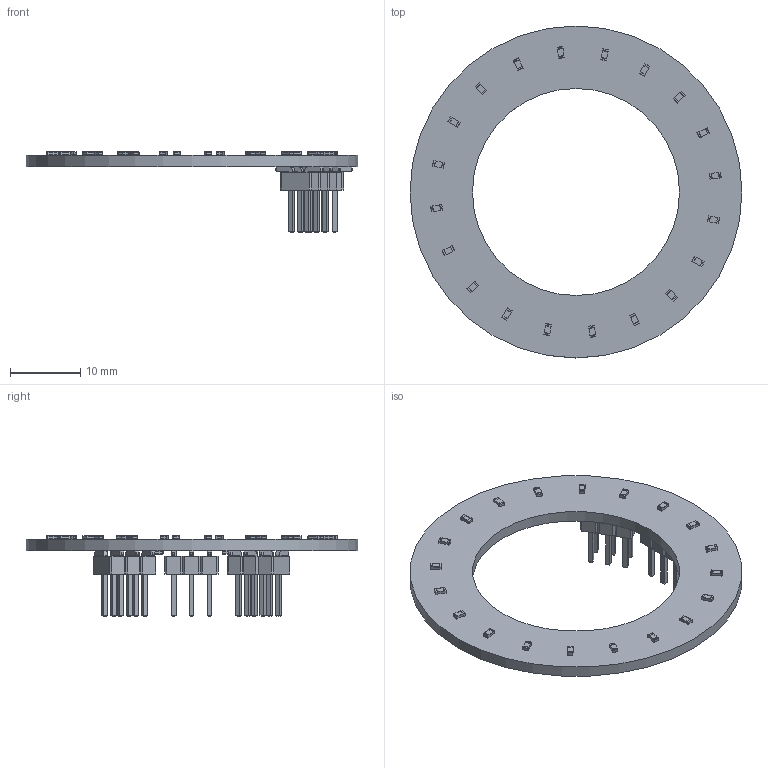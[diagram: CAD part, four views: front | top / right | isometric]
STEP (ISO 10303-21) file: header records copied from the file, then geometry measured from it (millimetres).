
FILE_DESCRIPTION(('KiCad electronic assembly'),'2;1');
FILE_NAME('ptvr_strobe_v1.step','2021-12-06T14:34:40',('An Author'),( 'A Company'),'Open CASCADE STEP processor 6.9', 'KiCad to STEP converter','Unknown');
FILE_SCHEMA(('AUTOMOTIVE_DESIGN { 1 0 10303 214 1 1 1 1 }'));
Length unit declared in the file: millimetre
Products named in the file (6): Open CASCADE STEP translator 6.9 1; R_0603_1608Metric; SOLID; PinHeader_2x03_P2.54mm_Vertical_SMD; COMPOUND
Assembly tree (29 placements, depth 3):
  Open CASCADE STEP translator 6.9 1
    R_0603_1608Metric  x23
      SOLID
    PinHeader_2x03_P2.54mm_Vertical_SMD  x3
      SOLID
    COMPOUND
Bounding box: 47.24 x 47.24 x 11.45 mm (x, y, z)
Volume: 2082.2 mm3; surface area: 3457.2 mm2
Topology: 27 solids, 27 shells, 1046 faces, 2632 edges, 1676 vertices
Faces by surface type: plane 842, cylinder 204
Full cylindrical faces by diameter (mm): 29.464 x1, 47.244 x1
Entity records: 12152 total; most frequent: CARTESIAN_POINT 1808, DIRECTION 1724, LINE 1220, VECTOR 1220, ORIENTED_EDGE 856, PCURVE 856, DEFINITIONAL_REPRESENTATION 856, EDGE_CURVE 428
